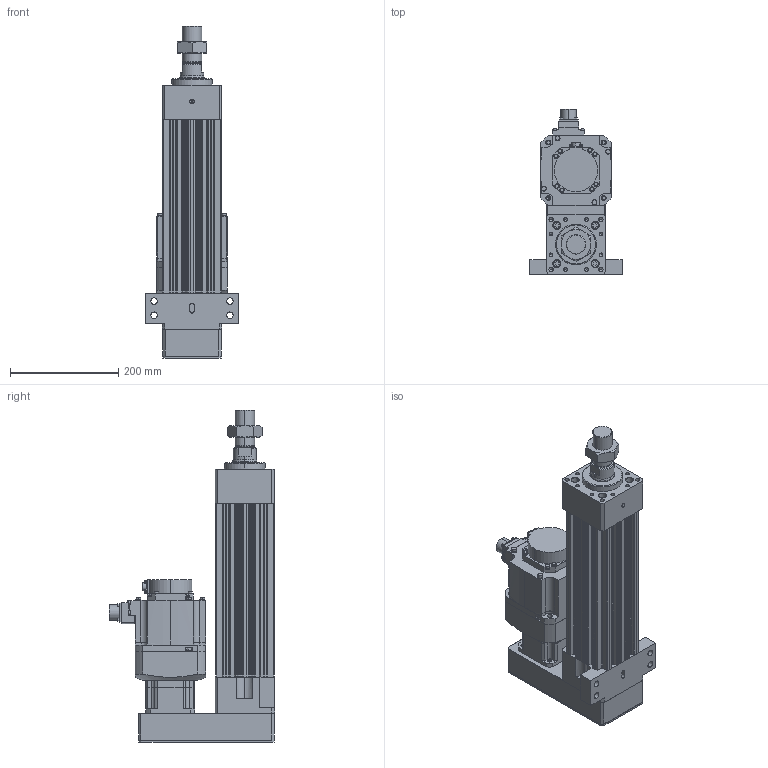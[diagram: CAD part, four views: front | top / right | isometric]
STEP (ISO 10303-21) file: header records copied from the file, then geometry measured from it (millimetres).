
FILE_DESCRIPTION (( 'STEP AP203' ), '1' );
FILE_NAME ('HES110NS(HS)-P150-W010G00-M-FFC.STEP', '2023-01-26T09:56:25', ( 'tms' ), ( '' ), 'SwSTEP 2.0', 'SolidWorks 2013', '' );
FILE_SCHEMA (( 'CONFIG_CONTROL_DESIGN' ));
Length unit declared in the file: millimetre
Products named in the file (8): M36X1.5P; HES110-P150-G090-FFC; HES110NS(HS)-P150-W010G00-M-FFC; HG-SR102; AB0901; P0401301004; HES110 ROD M ST150; AB090-003[HG-SR102B]
Assembly tree (7 placements, depth 3):
  HES110NS(HS)-P150-W010G00-M-FFC
    HES110-P150-G090-FFC
    HES110 ROD M ST150
    M36X1.5P
    HG-SR102
    AB090-003[HG-SR102B]
      AB0901
      P0401301004
Bounding box: 170 x 304.99 x 613 mm (x, y, z)
Volume: 6484587.9 mm3; surface area: 775782.7 mm2
Topology: 4 solids, 11 shells, 1111 faces, 2835 edges, 1826 vertices
Faces by surface type: cylinder 519, plane 486, cone 94, bspline 8, torus 4
Entity records: 35472 total; most frequent: CARTESIAN_POINT 6938, DIRECTION 6110, ORIENTED_EDGE 5574, EDGE_CURVE 2797, AXIS2_PLACEMENT_3D 2269, VERTEX_POINT 1826, VECTOR 1572, LINE 1572
